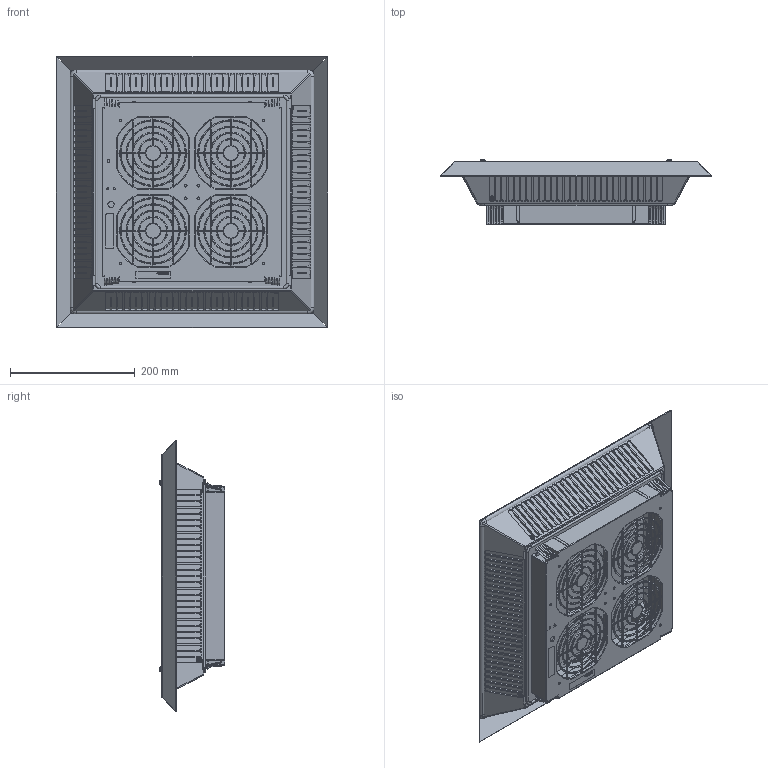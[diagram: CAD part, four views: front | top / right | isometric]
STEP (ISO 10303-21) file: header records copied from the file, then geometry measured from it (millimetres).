
FILE_DESCRIPTION (( 'STEP AP203' ), '1' );
FILE_NAME ('PTFA 60000.STEP', '2010-07-23T07:47:05', ( ' ' ), ( ' ' ), 'SwSTEP 2.0', 'SolidWorks 2010', '' );
FILE_SCHEMA (( 'CONFIG_CONTROL_DESIGN' ));
Products named in the file (1): PTFA 60000
Bounding box: 436 x 105.3 x 436 mm (x, y, z)
Surface area: 901403 mm2 (no closed solid volume)
Topology: 0 solids, 224 shells, 2999 faces, 10993 edges, 7711 vertices
Faces by surface type: cylinder 1304, plane 1022, bspline 385, torus 267, cone 11, sphere 10
Entity records: 144282 total; most frequent: CARTESIAN_POINT 60635, DIRECTION 16033, ORIENTED_EDGE 15149, EDGE_CURVE 10743, VERTEX_POINT 7711, VECTOR 5889, LINE 5889, AXIS2_PLACEMENT_3D 5072
